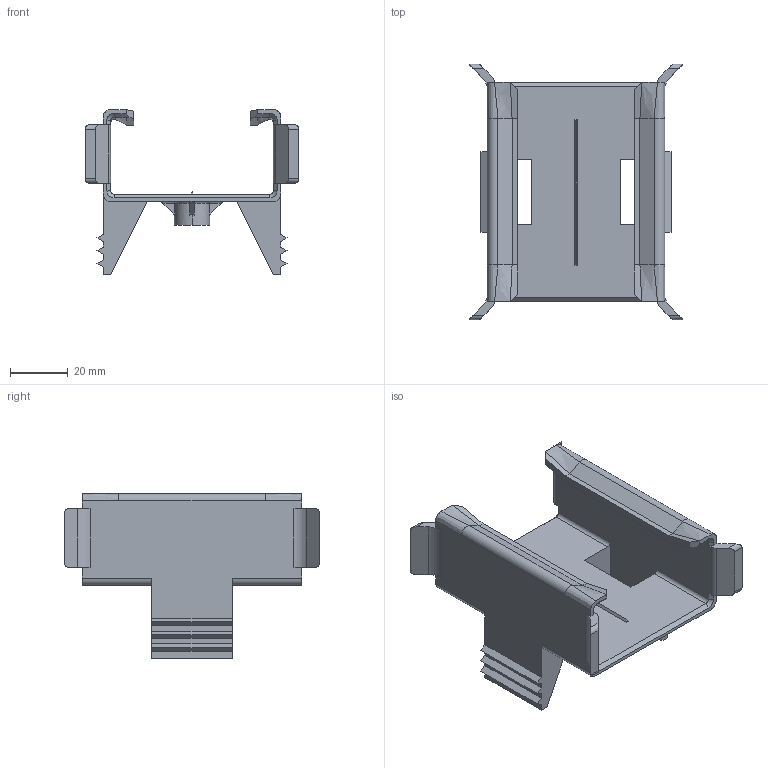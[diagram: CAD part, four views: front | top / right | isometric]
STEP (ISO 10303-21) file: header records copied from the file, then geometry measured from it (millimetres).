
FILE_DESCRIPTION((''),'2;1');
FILE_NAME('ADPTR_PH-TRIPOD_THDP0200_ENCL','2026-01-15T11:33:51',('daviden'),(''),'CREO PARAMETRIC BY PTC INC, 2022284','CREO PARAMETRIC BY PTC INC, 2022284','');
FILE_SCHEMA(('CONFIG_CONTROL_DESIGN','SHAPE_APPEARANCE_LAYERS_GROUPS'));
Length unit declared in the file: inch
Products named in the file (1): ADPTR_PH-TRIPOD_THDP0200_ENCL
Bounding box: 74.42 x 88.9 x 57.39 mm (x, y, z)
Volume: 32960 mm3; surface area: 27604.7 mm2
Topology: 1 solids, 1 shells, 196 faces, 531 edges, 336 vertices
Faces by surface type: plane 116, cylinder 44, bspline 24, cone 6, torus 6
Entity records: 8786 total; most frequent: CARTESIAN_POINT 2256, ORIENTED_EDGE 1062, DIRECTION 835, PRESENTATION_STYLE_ASSIGNMENT 532, STYLED_ITEM 532, CURVE_STYLE 531, EDGE_CURVE 531, VECTOR 375
